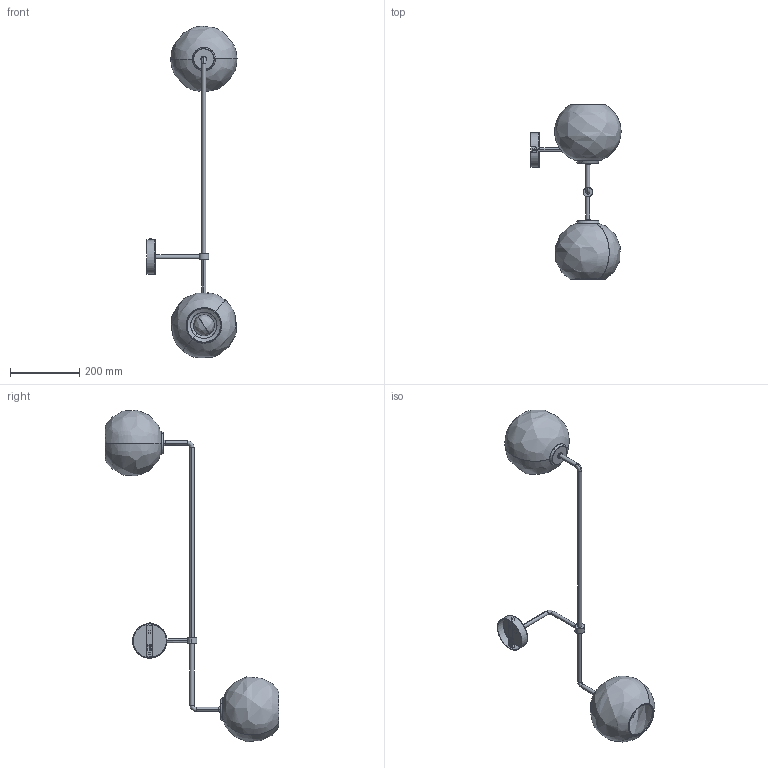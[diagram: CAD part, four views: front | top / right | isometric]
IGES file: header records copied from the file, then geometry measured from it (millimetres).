
Start section: SolidWorks IGES file using analytic representation for surfaces
Global section: file name: E:\3D lampy\Monaco\Monaco_9362\Monaco_9362.IGS; native system: SolidWorks 2017; preprocessor: SolidWorks 2017; author: joanna.pastusinska; date: 180427.080438; units: millimetre
Bounding box: 261.22 x 503.78 x 961.15 mm (x, y, z)
Surface area: 613308.7 mm2 (no closed solid volume)
Topology: 0 solids, 0 shells, 580 faces, 11480 edges, 11440 vertices
Faces by surface type: revolution 330, bspline 250
